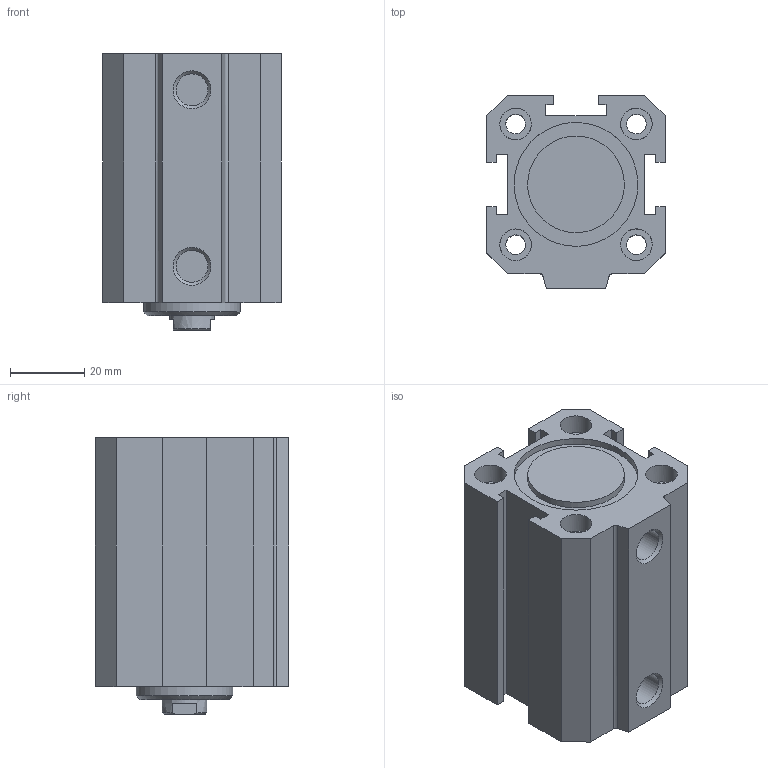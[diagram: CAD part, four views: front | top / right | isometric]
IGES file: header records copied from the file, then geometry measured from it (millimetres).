
Global section: file name: 1511_32_0030; native system: Autodesk Inventor 2014; preprocessor: unknown; author: A. Manieri; date: 20160824.113418; units: millimetre
Bounding box: 48 x 52 x 74.5 mm (x, y, z)
Volume: 110671.7 mm3; surface area: 37693.2 mm2
Topology: 2 solids, 2 shells, 93 faces, 237 edges, 166 vertices
Faces by surface type: bspline 93
